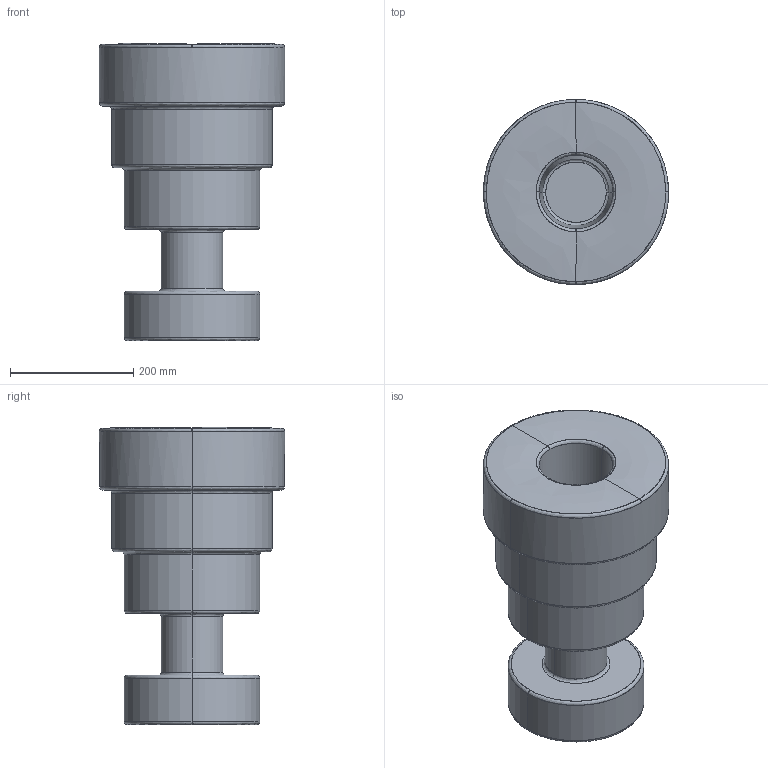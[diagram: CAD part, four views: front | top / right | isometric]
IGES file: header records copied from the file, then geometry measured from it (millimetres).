
Start section: OMNICAD :convertitore Iges
Global section: file name: C:\Users\rendering\Desktop\3d host\CONSEGNA\3d_Calice_Ettore Sottsass_Kartell.igs; native system: Rhinoceros ( May 22 2017 ); preprocessor: Trout Lake IGES 012 May 22 2017; date: 171013.154311; units: millimetre
Bounding box: 300 x 300 x 481.5 mm (x, y, z)
Surface area: 602942.4 mm2 (no closed solid volume)
Topology: 0 solids, 0 shells, 53 faces, 2090 edges, 2090 vertices
Faces by surface type: bspline 53
